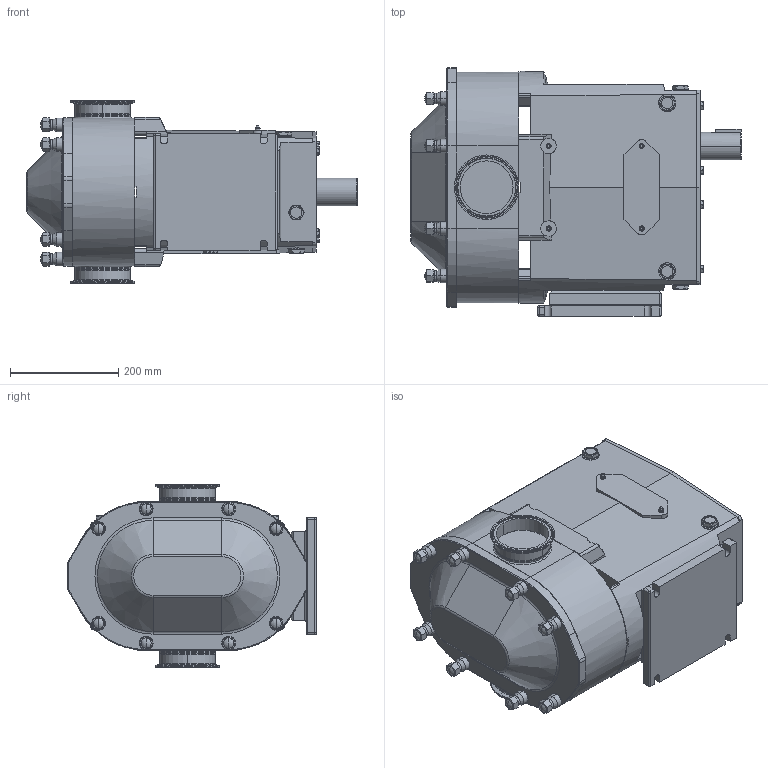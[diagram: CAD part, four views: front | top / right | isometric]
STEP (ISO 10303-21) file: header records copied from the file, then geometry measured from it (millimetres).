
FILE_DESCRIPTION (( 'STEP AP203' ), '1' );
FILE_NAME ('Joined_220_U2_Upper Shaft.STEP', '2008-03-06T12:12:27', ( '' ), ( '' ), 'SwSTEP 2.0', 'SolidWorks 2006233', '' );
FILE_SCHEMA (( 'CONFIG_CONTROL_DESIGN' ));
Length unit declared in the file: inch
Products named in the file (1): Joined_220_U2_Upper Shaft
Bounding box: 609.88 x 459.49 x 337.72 mm (x, y, z)
Volume: 43700904.7 mm3; surface area: 1177121 mm2
Topology: 1 solids, 23 shells, 1540 faces, 3811 edges, 2390 vertices
Faces by surface type: plane 753, cone 321, cylinder 285, bspline 103, torus 58, sphere 20
Entity records: 47747 total; most frequent: CARTESIAN_POINT 12275, ORIENTED_EDGE 7494, DIRECTION 6972, EDGE_CURVE 3747, VERTEX_POINT 2390, AXIS2_PLACEMENT_3D 2387, VECTOR 2198, LINE 2198
